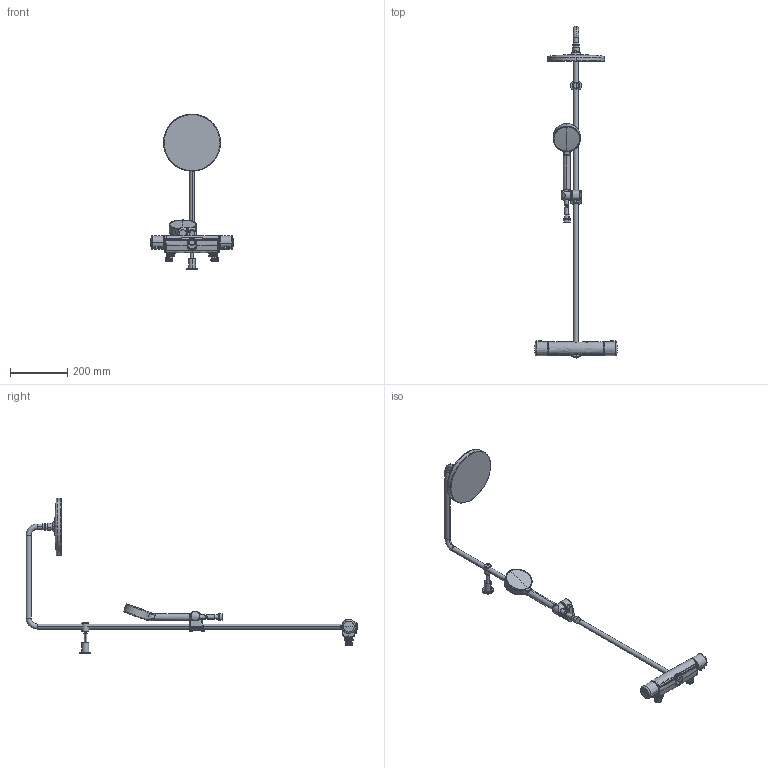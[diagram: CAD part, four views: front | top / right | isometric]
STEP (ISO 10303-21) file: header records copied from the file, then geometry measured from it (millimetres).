
FILE_DESCRIPTION (( 'STEP AP203' ), '1' );
FILE_NAME ('7409(2020).STEP', '2019-09-12T04:30:12', ( '' ), ( '' ), 'SwSTEP 2.0', 'SolidWorks 2016', '' );
FILE_SCHEMA (( 'CONFIG_CONTROL_DESIGN' ));
Products named in the file (1): 7409(2020)
Bounding box: 289.92 x 1162.4 x 545.7 mm (x, y, z)
Volume: 1841293.3 mm3; surface area: 369556.2 mm2
Topology: 24 solids, 30 shells, 900 faces, 2092 edges, 1253 vertices
Faces by surface type: bspline 320, cylinder 233, plane 134, cone 87, torus 86, sphere 40
Entity records: 62511 total; most frequent: CARTESIAN_POINT 44796, ORIENTED_EDGE 4148, DIRECTION 3032, EDGE_CURVE 2074, AXIS2_PLACEMENT_3D 1322, VERTEX_POINT 1251, EDGE_LOOP 923, ADVANCED_FACE 900
